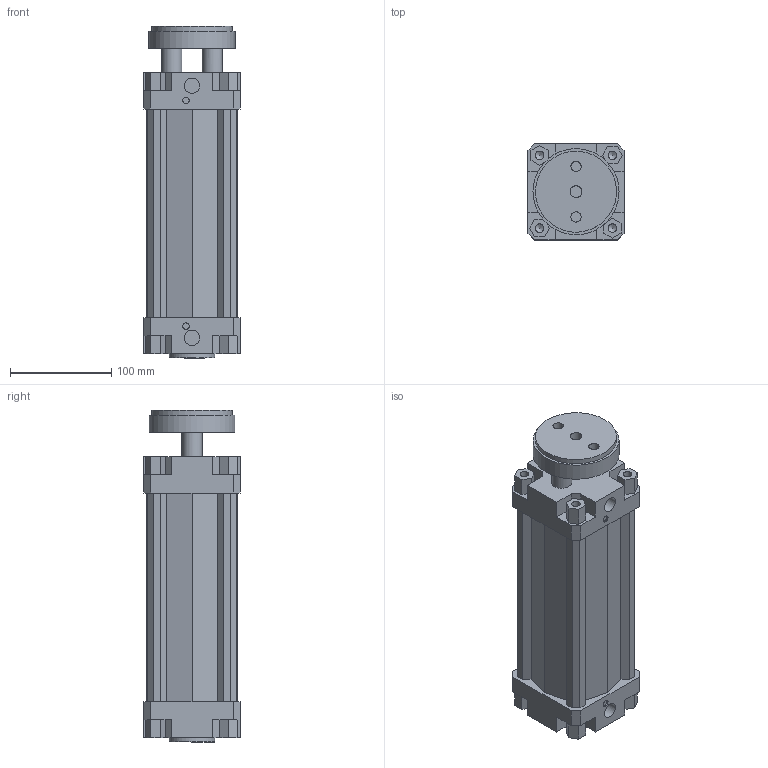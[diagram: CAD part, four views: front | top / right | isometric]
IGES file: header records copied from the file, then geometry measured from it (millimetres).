
Global section: file name: 132#_080_0150_01; native system: Autodesk Inventor 2014; preprocessor: unknown; author: A. Manieri; date: 20161006.162347; units: millimetre
Bounding box: 95 x 95 x 328 mm (x, y, z)
Volume: 1465258.5 mm3; surface area: 271385.4 mm2
Topology: 2 solids, 2 shells, 180 faces, 491 edges, 335 vertices
Faces by surface type: bspline 180
